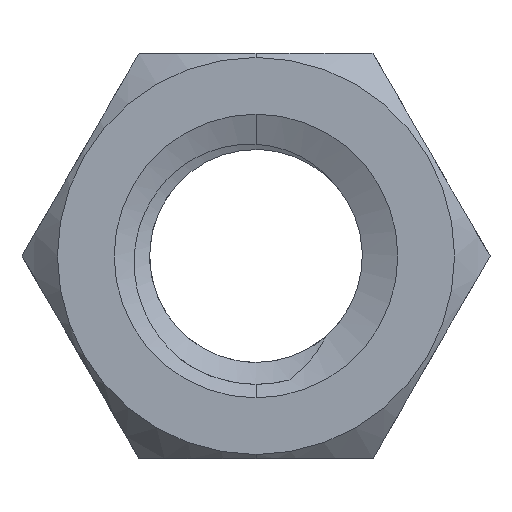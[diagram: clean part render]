
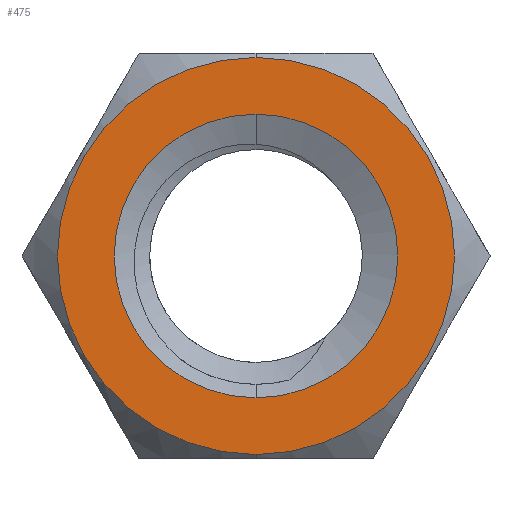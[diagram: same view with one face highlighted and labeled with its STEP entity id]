
A CAD part, front view. The second image highlights one B-rep face of the part: STEP entity #475.
In plain terms, the highlighted planar face has unit normal (0, -1, 0).
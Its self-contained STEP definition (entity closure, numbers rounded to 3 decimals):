
#108 = DIRECTION ( 'NONE',  ( 0., 0., 1. ) ) ;
#165 = VERTEX_POINT ( 'NONE', #1128 ) ;
#210 = CARTESIAN_POINT ( 'NONE',  ( 0., -1.3, 0. ) ) ;
#235 = ORIENTED_EDGE ( 'NONE', *, *, #810, .T. ) ;
#242 = AXIS2_PLACEMENT_3D ( 'NONE', #1649, #883, #1498 ) ;
#336 = CIRCLE ( 'NONE', #242, 2.8 ) ;
#338 = AXIS2_PLACEMENT_3D ( 'NONE', #1740, #1114, #1521 ) ;
#402 = AXIS2_PLACEMENT_3D ( 'NONE', #210, #507, #1588 ) ;
#405 = DIRECTION ( 'NONE',  ( 0., 1., 0. ) ) ;
#475 = ADVANCED_FACE ( 'NONE', ( #1002, #831 ), #852, .F. ) ;
#507 = DIRECTION ( 'NONE',  ( 0., -1., 0. ) ) ;
#676 = CARTESIAN_POINT ( 'NONE',  ( 0., -1.3, 0. ) ) ;
#685 = ORIENTED_EDGE ( 'NONE', *, *, #1442, .T. ) ;
#693 = CIRCLE ( 'NONE', #338, 3.919 ) ;
#725 = EDGE_CURVE ( 'NONE', #1298, #165, #336, .T. ) ;
#729 = EDGE_LOOP ( 'NONE', ( #685, #235 ) ) ;
#788 = AXIS2_PLACEMENT_3D ( 'NONE', #1105, #1574, #938 ) ;
#810 = EDGE_CURVE ( 'NONE', #1778, #1447, #855, .T. ) ;
#831 = FACE_OUTER_BOUND ( 'NONE', #729, .T. ) ;
#852 = PLANE ( 'NONE',  #890 ) ;
#855 = CIRCLE ( 'NONE', #788, 3.919 ) ;
#883 = DIRECTION ( 'NONE',  ( 0., -1., 0. ) ) ;
#890 = AXIS2_PLACEMENT_3D ( 'NONE', #676, #405, #108 ) ;
#938 = DIRECTION ( 'NONE',  ( 0., 0., -1. ) ) ;
#1002 = FACE_BOUND ( 'NONE', #1270, .T. ) ;
#1083 = CARTESIAN_POINT ( 'NONE',  ( 0., -1.3, 3.919 ) ) ;
#1105 = CARTESIAN_POINT ( 'NONE',  ( 0., -1.3, 0. ) ) ;
#1114 = DIRECTION ( 'NONE',  ( 0., -1., 0. ) ) ;
#1128 = CARTESIAN_POINT ( 'NONE',  ( 0., -1.3, -2.8 ) ) ;
#1270 = EDGE_LOOP ( 'NONE', ( #1490, #1511 ) ) ;
#1298 = VERTEX_POINT ( 'NONE', #1934 ) ;
#1442 = EDGE_CURVE ( 'NONE', #1447, #1778, #693, .T. ) ;
#1447 = VERTEX_POINT ( 'NONE', #1083 ) ;
#1471 = CIRCLE ( 'NONE', #402, 2.8 ) ;
#1490 = ORIENTED_EDGE ( 'NONE', *, *, #725, .F. ) ;
#1498 = DIRECTION ( 'NONE',  ( 0., 0., -1. ) ) ;
#1511 = ORIENTED_EDGE ( 'NONE', *, *, #1985, .F. ) ;
#1521 = DIRECTION ( 'NONE',  ( 0., 0., -1. ) ) ;
#1574 = DIRECTION ( 'NONE',  ( 0., -1., 0. ) ) ;
#1588 = DIRECTION ( 'NONE',  ( 0., 0., -1. ) ) ;
#1649 = CARTESIAN_POINT ( 'NONE',  ( 0., -1.3, 0. ) ) ;
#1683 = CARTESIAN_POINT ( 'NONE',  ( 0., -1.3, -3.919 ) ) ;
#1740 = CARTESIAN_POINT ( 'NONE',  ( 0., -1.3, 0. ) ) ;
#1778 = VERTEX_POINT ( 'NONE', #1683 ) ;
#1934 = CARTESIAN_POINT ( 'NONE',  ( 0., -1.3, 2.8 ) ) ;
#1985 = EDGE_CURVE ( 'NONE', #165, #1298, #1471, .T. ) ;
